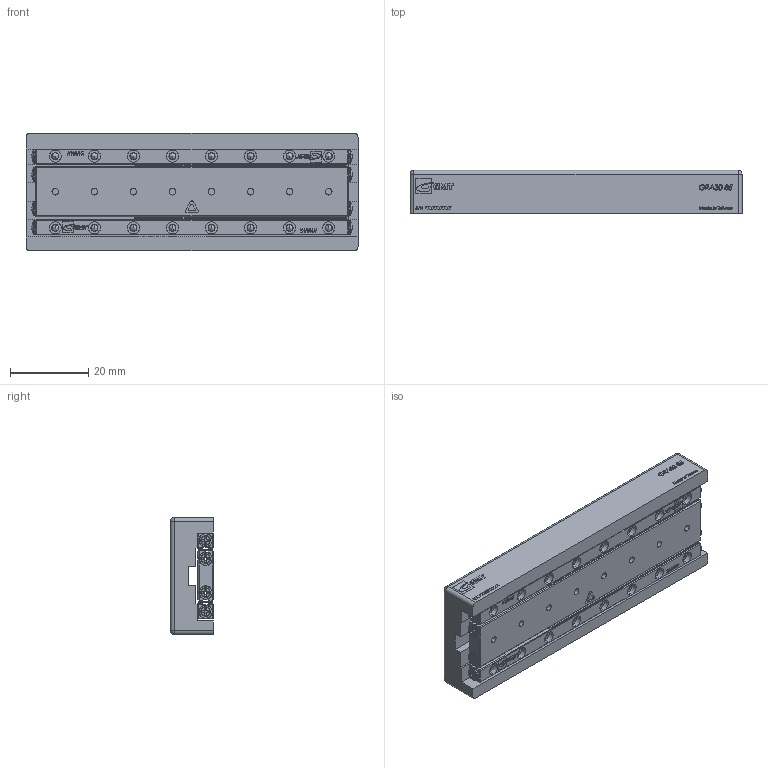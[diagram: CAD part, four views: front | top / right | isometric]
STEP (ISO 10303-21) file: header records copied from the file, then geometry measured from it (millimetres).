
FILE_DESCRIPTION (( 'STEP AP203' ), '1' );
FILE_NAME ('GRA30-85(網站用).STEP', '2013-11-25T06:59:52', ( '' ), ( '' ), 'SwSTEP 2.0', 'SolidWorks 2013', '' );
FILE_SCHEMA (( 'CONFIG_CONTROL_DESIGN' ));
Length unit declared in the file: millimetre
Products named in the file (1): GRA30-85(網站用)
Bounding box: 85 x 11 x 30 mm (x, y, z)
Surface area: 14657.2 mm2 (no closed solid volume)
Topology: 0 solids, 82 shells, 948 faces, 4509 edges, 3540 vertices
Faces by surface type: plane 549, cylinder 220, torus 80, cone 72, sphere 20, bspline 7
Entity records: 50083 total; most frequent: CARTESIAN_POINT 14949, DIRECTION 7025, ORIENTED_EDGE 6254, EDGE_CURVE 4473, VERTEX_POINT 3540, LINE 2645, VECTOR 2645, AXIS2_PLACEMENT_3D 2190
